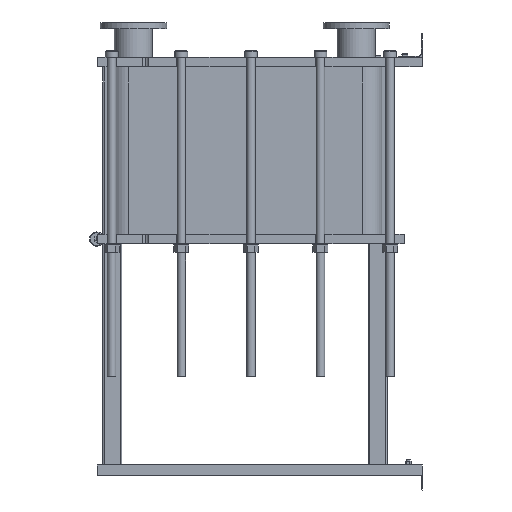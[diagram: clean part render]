
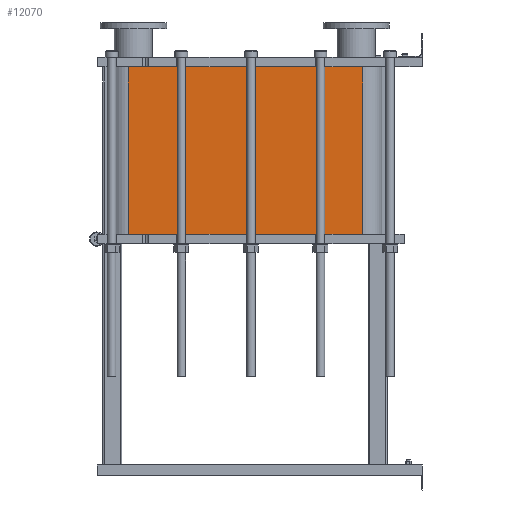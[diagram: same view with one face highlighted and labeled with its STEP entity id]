
A CAD part, left-side view. The second image highlights one B-rep face of the part: STEP entity #12070.
In plain terms, the highlighted planar face has unit normal (-1, 0, 0).
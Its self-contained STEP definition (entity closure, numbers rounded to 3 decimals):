
#1064=LINE('',#21140,#2164);
#1065=LINE('',#21144,#2165);
#1066=LINE('',#21146,#2166);
#1067=LINE('',#21147,#2167);
#2164=VECTOR('',#15790,10.);
#2165=VECTOR('',#15795,10.);
#2166=VECTOR('',#15796,10.);
#2167=VECTOR('',#15797,10.);
#3304=FACE_OUTER_BOUND('',#4091,.T.);
#4091=EDGE_LOOP('',(#9793,#9794,#9795,#9796));
#5677=VERTEX_POINT('',#21137);
#5678=VERTEX_POINT('',#21139);
#5679=VERTEX_POINT('',#21143);
#5680=VERTEX_POINT('',#21145);
#7118=EDGE_CURVE('',#5678,#5677,#1064,.T.);
#7120=EDGE_CURVE('',#5677,#5679,#1065,.T.);
#7121=EDGE_CURVE('',#5680,#5679,#1066,.T.);
#7122=EDGE_CURVE('',#5680,#5678,#1067,.T.);
#9793=ORIENTED_EDGE('',*,*,#7120,.T.);
#9794=ORIENTED_EDGE('',*,*,#7121,.F.);
#9795=ORIENTED_EDGE('',*,*,#7122,.T.);
#9796=ORIENTED_EDGE('',*,*,#7118,.T.);
#11441=PLANE('',#13191);
#12070=ADVANCED_FACE('',(#3304),#11441,.T.);
#13191=AXIS2_PLACEMENT_3D('',#21142,#15793,#15794);
#15790=DIRECTION('',(0.,0.,-1.));
#15793=DIRECTION('center_axis',(-1.,0.,0.));
#15794=DIRECTION('ref_axis',(0.,1.,0.));
#15795=DIRECTION('',(0.,-1.,0.));
#15796=DIRECTION('',(0.,0.,-1.));
#15797=DIRECTION('',(0.,1.,0.));
#21137=CARTESIAN_POINT('',(-248.152,1243.818,-707.25));
#21139=CARTESIAN_POINT('',(-248.152,1243.818,0.));
#21140=CARTESIAN_POINT('',(-248.152,1243.818,0.));
#21142=CARTESIAN_POINT('Origin',(-248.152,251.818,0.));
#21143=CARTESIAN_POINT('',(-248.152,251.818,-707.25));
#21144=CARTESIAN_POINT('',(-248.152,499.818,-707.25));
#21145=CARTESIAN_POINT('',(-248.152,251.818,0.));
#21146=CARTESIAN_POINT('',(-248.152,251.818,0.));
#21147=CARTESIAN_POINT('',(-248.152,251.818,0.));
